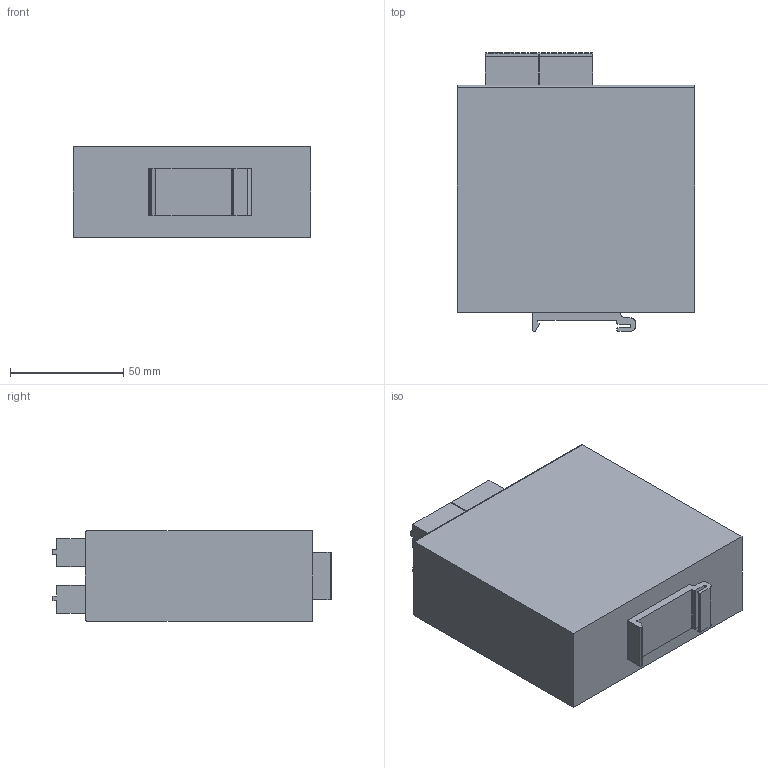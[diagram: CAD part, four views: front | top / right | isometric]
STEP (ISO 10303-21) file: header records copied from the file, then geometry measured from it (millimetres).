
FILE_DESCRIPTION((''),'2;1');
FILE_NAME('ASM0002_ASM_10_ASM','2025-04-01T',('Administrator'),(''),'PRO/ENGINEER BY PARAMETRIC TECHNOLOGY CORPORATION, 2015240','PRO/ENGINEER BY PARAMETRIC TECHNOLOGY CORPORATION, 2015240','');
FILE_SCHEMA(('CONFIG_CONTROL_DESIGN'));
Products named in the file (11): PRT0016; PRT0017; PRT0018; PRT0019; PRT0020; ASM0001_ASM_1_ASM; ASM0004_ASM; PRT0021; PRT0022; FADSFDASF; ASM0002_ASM_10_ASM
Assembly tree (26 placements, depth 4):
  ASM0002_ASM_10_ASM
    PRT0016
    ASM0004_ASM
      ASM0001_ASM_1_ASM
        PRT0017
        PRT0018  x8
        PRT0019  x8
        PRT0020
    PRT0021
    ASM0001_ASM_1_ASM
      PRT0017
      PRT0018  x8
      PRT0019  x8
      PRT0020
    PRT0022  x2
    FADSFDASF
Bounding box: 105 x 123.01 x 40 mm (x, y, z)
Volume: 433076.1 mm3; surface area: 58414.8 mm2
Topology: 41 solids, 41 shells, 4337 faces, 12288 edges, 8178 vertices
Faces by surface type: plane 3504, cylinder 731, bspline 72, sphere 22, torus 8
Entity records: 100694 total; most frequent: CARTESIAN_POINT 20232, ORIENTED_EDGE 17346, DIRECTION 15606, EDGE_CURVE 8673, VECTOR 7500, LINE 7500, VERTEX_POINT 5775, AXIS2_PLACEMENT_3D 4053
